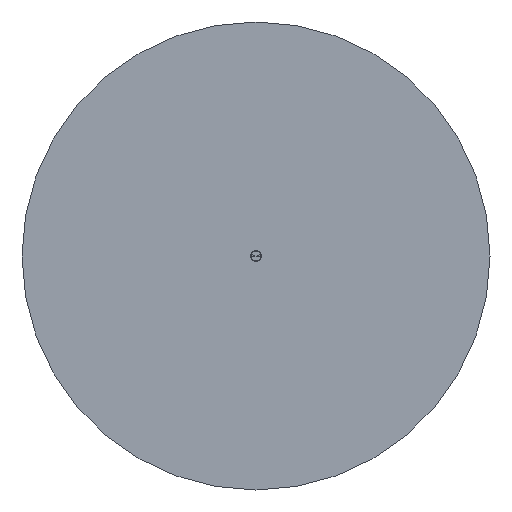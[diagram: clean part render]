
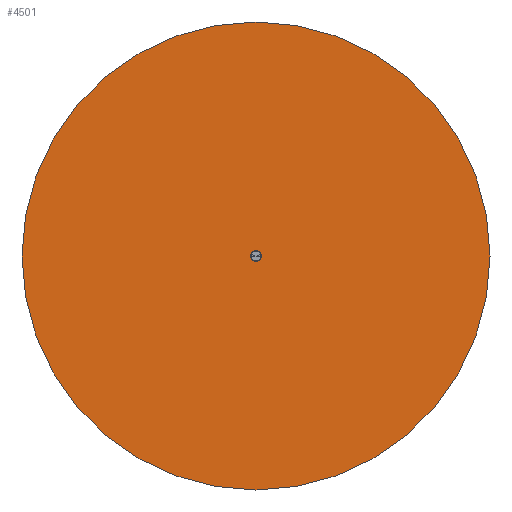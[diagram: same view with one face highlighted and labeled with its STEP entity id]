
A CAD part, front view. The second image highlights one B-rep face of the part: STEP entity #4501.
In plain terms, the highlighted planar face has unit normal (0, -1, 0).
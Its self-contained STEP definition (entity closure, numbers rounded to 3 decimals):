
#3281=CARTESIAN_POINT('',(70.,-27.5,0.0));
#3282=VERTEX_POINT('',#3281);
#3298=CARTESIAN_POINT('',(-70.,-27.5,0.));
#3299=VERTEX_POINT('',#3298);
#3306=CARTESIAN_POINT('',(0.0,-27.5,0.0));
#3307=DIRECTION('',(0.0,-1.0,0.0));
#3308=DIRECTION('',(1.0,0.0,0.0));
#3309=AXIS2_PLACEMENT_3D('',#3306,#3307,#3308);
#3310=CIRCLE('',#3309,70.);
#3311=EDGE_CURVE('',#3282,#3299,#3310,.T.);
#3832=CARTESIAN_POINT('',(1.632,-27.5,0.0));
#3833=VERTEX_POINT('',#3832);
#3849=CARTESIAN_POINT('',(-1.632,-27.5,0.));
#3850=VERTEX_POINT('',#3849);
#3857=CARTESIAN_POINT('',(0.0,-27.5,0.0));
#3858=DIRECTION('',(0.0,-1.0,0.0));
#3859=DIRECTION('',(1.0,0.0,0.0));
#3860=AXIS2_PLACEMENT_3D('',#3857,#3858,#3859);
#3861=CIRCLE('',#3860,1.632);
#3862=EDGE_CURVE('',#3850,#3833,#3861,.T.);
#4081=CARTESIAN_POINT('',(0.0,-27.5,0.0));
#4082=DIRECTION('',(0.0,-1.0,0.0));
#4083=DIRECTION('',(1.0,0.0,0.0));
#4084=AXIS2_PLACEMENT_3D('',#4081,#4082,#4083);
#4085=CIRCLE('',#4084,1.632);
#4086=EDGE_CURVE('',#3833,#3850,#4085,.T.);
#4476=CARTESIAN_POINT('',(0.0,-27.5,0.0));
#4477=DIRECTION('',(0.0,-1.0,0.0));
#4478=DIRECTION('',(1.0,0.0,0.0));
#4479=AXIS2_PLACEMENT_3D('',#4476,#4477,#4478);
#4480=CIRCLE('',#4479,70.);
#4481=EDGE_CURVE('',#3299,#3282,#4480,.T.);
#4488=CARTESIAN_POINT('',(35.816,-27.5,0.0));
#4489=DIRECTION('',(0.0,-1.0,0.0));
#4490=DIRECTION('',(0.0,0.0,-1.0));
#4491=AXIS2_PLACEMENT_3D('',#4488,#4489,#4490);
#4492=PLANE('',#4491);
#4493=ORIENTED_EDGE('',*,*,#3311,.T.);
#4494=ORIENTED_EDGE('',*,*,#4481,.T.);
#4495=EDGE_LOOP('',(#4493,#4494));
#4496=FACE_OUTER_BOUND('',#4495,.T.);
#4497=ORIENTED_EDGE('',*,*,#4086,.F.);
#4498=ORIENTED_EDGE('',*,*,#3862,.F.);
#4499=EDGE_LOOP('',(#4497,#4498));
#4500=FACE_BOUND('',#4499,.T.);
#4501=ADVANCED_FACE('',(#4496,#4500),#4492,.T.);
